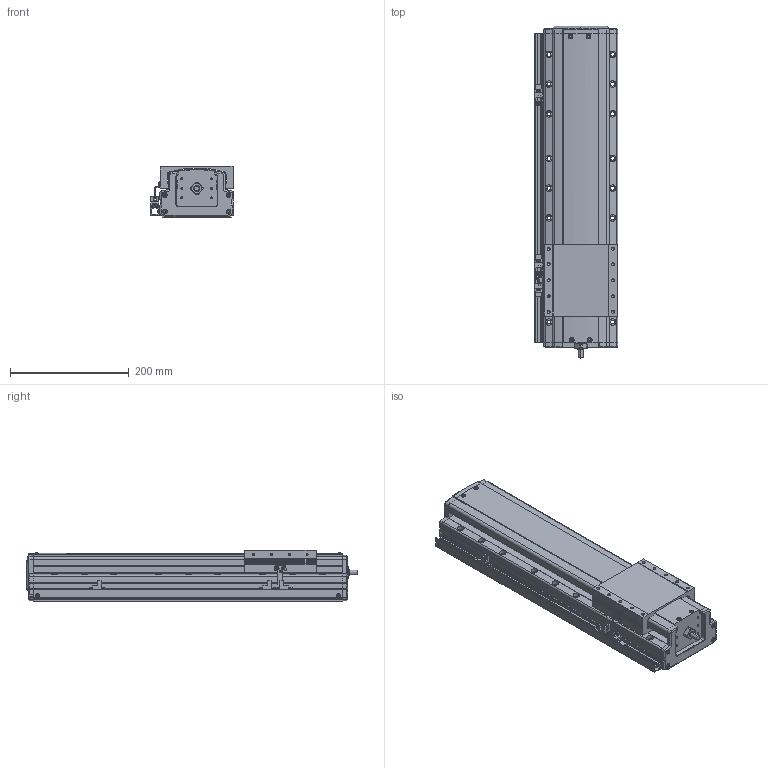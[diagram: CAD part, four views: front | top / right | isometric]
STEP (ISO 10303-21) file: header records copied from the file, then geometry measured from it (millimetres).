
FILE_DESCRIPTION(('STEP AP214'),'1');
FILE_NAME('Z:/Web/3D/PSA125/STP/PSA125-300 (3D)/PSA125ㅁㅁ-300+3SL.stp','2014-06-22T23:32:00',(' '),(' '),'Spatial InterOp 3D',' ',' ');
FILE_SCHEMA(('automotive_design'));
Length unit declared in the file: millimetre
Products named in the file (36): 스크루 : Round - M4.0 x 10.0; RRCV-PA120; SLIDE; BASE; FRCV-PA120-1(기준 뿔 제거); RR1500; 스크루 : Round - M4.0 x 6.0; 너트 : Square - M10.0 x 220.7419; EE-SX674; SBK-SX674-352; 스크루 : Round - M3.0 x 6.0; M3.0 x 6.0; SRL-16x17-380L; SGD-PA95; 스크루 : Round - M3.0 x 8.0
Bounding box: 141 x 558.1 x 86 mm (x, y, z)
Volume: 4618446.9 mm3; surface area: 478957.6 mm2
Topology: 36 solids, 36 shells, 2339 faces, 6257 edges, 4022 vertices
Faces by surface type: plane 1363, cylinder 648, cone 220, sphere 52, bspline 31, torus 25
Entity records: 93741 total; most frequent: CARTESIAN_POINT 15350, DIRECTION 12419, ORIENTED_EDGE 12278, EDGE_CURVE 6139, LINE 4211, VECTOR 4211, AXIS2_PLACEMENT_3D 4104, VERTEX_POINT 4022
